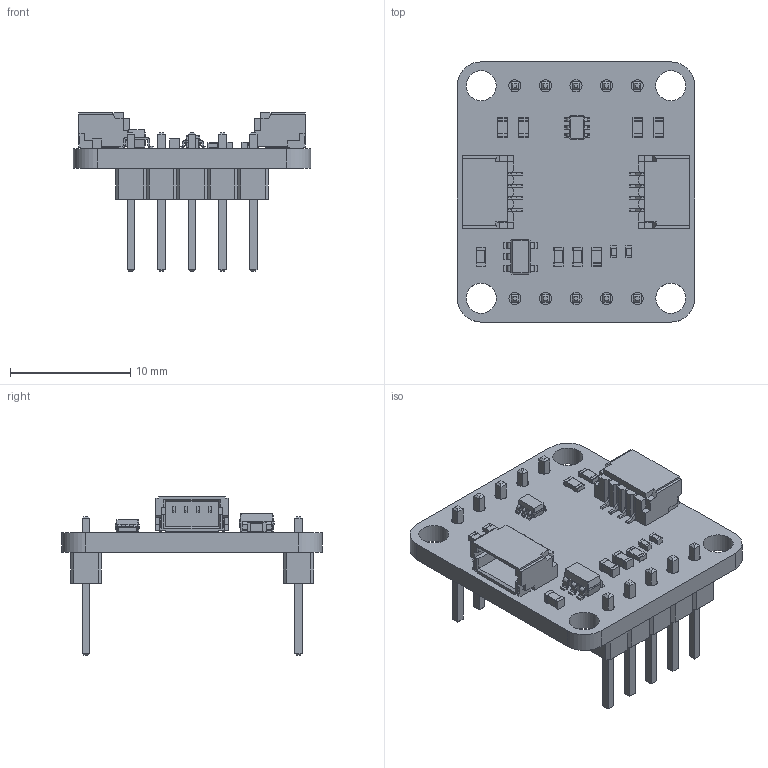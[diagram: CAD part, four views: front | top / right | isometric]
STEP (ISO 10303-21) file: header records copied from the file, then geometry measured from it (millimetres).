
FILE_DESCRIPTION(('KiCad electronic assembly'),'2;1');
FILE_NAME('STP_AXM0030.step','2025-01-28T18:08:12',('Pcbnew'),('Kicad'), 'Open CASCADE STEP processor 7.8','KiCad to STEP converter','Unknown' );
FILE_SCHEMA(('AUTOMOTIVE_DESIGN { 1 0 10303 214 1 1 1 1 }'));
Length unit declared in the file: millimetre
Products named in the file (16): STP_AXM0030 1; C_0603_1608Metric; R_0603_1608Metric; SM04B-SRSS-TB(LF)(SN)--3DModel-STEP-269445; SM04B-SRSS-TB(LF)(SN); C_0402_1005Metric; SOT-23-5; SOT_23_5; SOT-363_SC-70-6; SOT_363_SC_70_6; PinHeader_1x05_P2.54mm_Vertical; PinHeader_1x05_P254mm_Vertical; Accelerometer_PCB
Assembly tree (24 placements, depth 3):
  STP_AXM0030 1
    C_0603_1608Metric  x3
      C_0603_1608Metric
    R_0603_1608Metric  x5
      R_0603_1608Metric
    SM04B-SRSS-TB(LF)(SN)--3DModel-STEP-269445  x2
      SM04B-SRSS-TB(LF)(SN)
    C_0402_1005Metric  x2
      C_0402_1005Metric
    SOT-23-5
      SOT_23_5
    SOT-363_SC-70-6
      SOT_363_SC_70_6
    PinHeader_1x05_P2.54mm_Vertical  x2
      PinHeader_1x05_P254mm_Vertical
    Accelerometer_PCB
Bounding box: 19.74 x 21.64 x 13.21 mm (x, y, z)
Volume: 926.2 mm3; surface area: 2004.3 mm2
Topology: 29 solids, 29 shells, 1227 faces, 3211 edges, 2066 vertices
Faces by surface type: plane 926, cylinder 242, bspline 59
Full cylindrical faces by diameter (mm): 1 x10, 2.5 x4
Entity records: 24031 total; most frequent: CARTESIAN_POINT 3871, ORIENTED_EDGE 3566, DIRECTION 3291, EDGE_CURVE 1783, LINE 1451, VECTOR 1451, VERTEX_POINT 1136, AXIS2_PLACEMENT_3D 920
